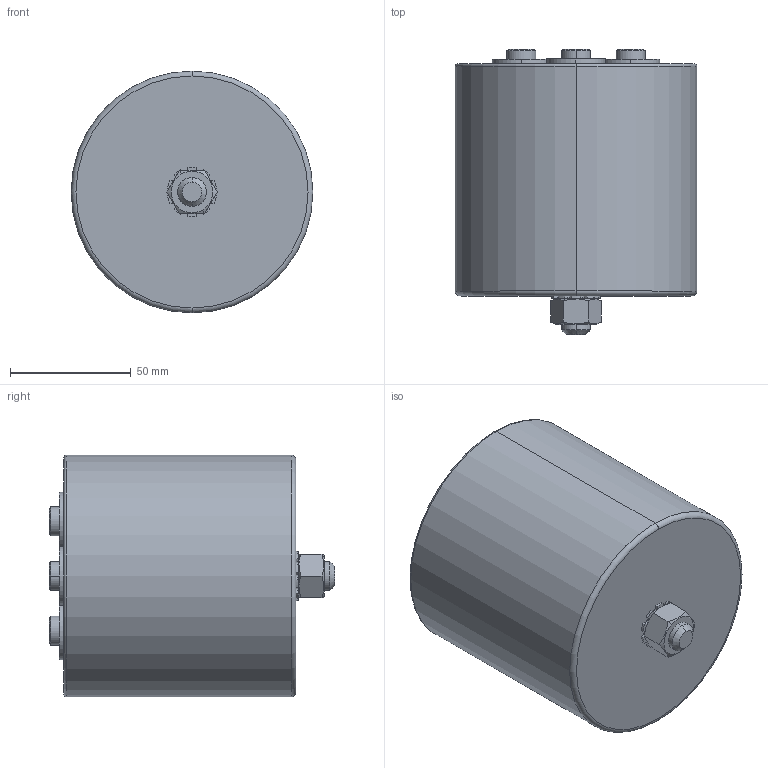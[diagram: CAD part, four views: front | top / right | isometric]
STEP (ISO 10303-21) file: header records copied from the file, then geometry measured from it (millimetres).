
FILE_DESCRIPTION (( 'STEP AP214' ), '1' );
FILE_NAME ('B25967 Series ¦µ100 Hc96 Ht102.STEP', '2025-08-20T02:05:21', ( '' ), ( '' ), 'SwSTEP 2.0', 'SolidWorks 2019', '' );
FILE_SCHEMA (( 'AUTOMOTIVE_DESIGN' ));
Length unit declared in the file: millimetre
Products named in the file (1): B25967 Series 朴100 Hc96 Ht102
Bounding box: 100 x 118 x 100 mm (x, y, z)
Volume: 757699.1 mm3; surface area: 50357.8 mm2
Topology: 1 solids, 2 shells, 162 faces, 379 edges, 230 vertices
Faces by surface type: cylinder 63, plane 63, cone 30, torus 6
Entity records: 4743 total; most frequent: CARTESIAN_POINT 896, DIRECTION 885, ORIENTED_EDGE 742, EDGE_CURVE 371, AXIS2_PLACEMENT_3D 363, VERTEX_POINT 230, CIRCLE 200, EDGE_LOOP 181
